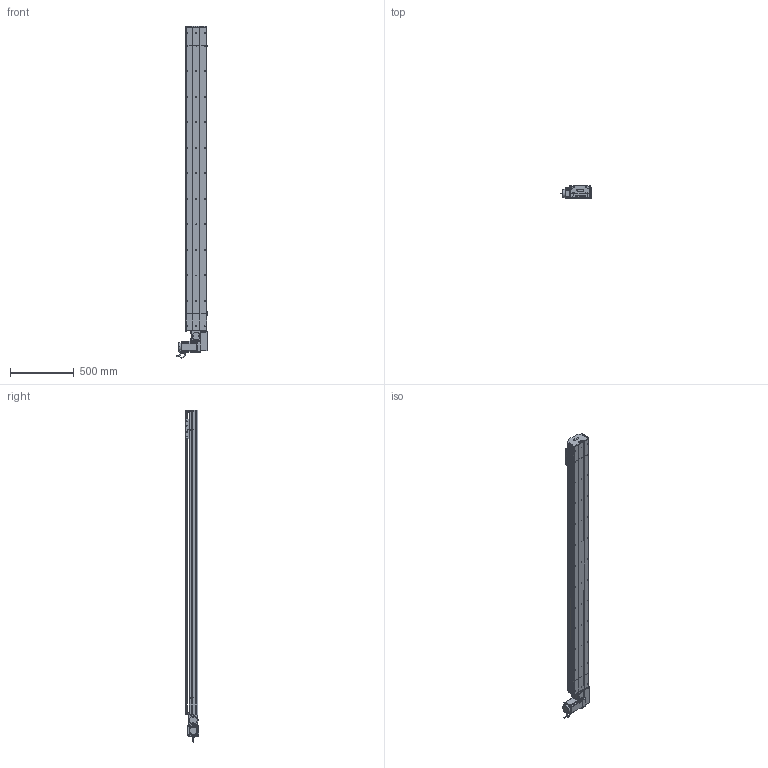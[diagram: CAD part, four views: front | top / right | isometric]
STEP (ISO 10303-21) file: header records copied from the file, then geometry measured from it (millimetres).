
FILE_DESCRIPTION (( 'STEP AP214' ), '1' );
FILE_NAME ('D17 TBH LH S2100.STEP', '2010-06-30T08:26:56', ( 'Christophe Gaillard' ), ( 'SGA' ), 'SwSTEP 2.0', 'SolidWorks 2010', '' );
FILE_SCHEMA (( 'AUTOMOTIVE_DESIGN' ));
Length unit declared in the file: millimetre
Products named in the file (40): D17 TBH LH S2100; Renvoi LH_Default; cache D17_Default; course 2100 D17B_Default; Couroie+ rail D17 Course 2100 ; Arbre+rail head D17B; plaque de  bout head D17B LH_Default; couvercle D17B head_Default; corp D17B 2100_Default; cache arbre D17_Default; corpl head D17 _Default; Head LH D17B_Default; couvercle D17B course L2100_Default; Conecteur2_Default; codeur 90BLDC125-640; corps 90BLDC125A-640; vis M5 L16_Default; Plaque racord D17_Default; vis M5 L70_Default; Conecteur_Default; corp tail D17B+100_Default; Tail D17B+100_Default; Vis M5 L16-2_Default; plaque de  bout tail D17B_Default; Rail D17B; tete d''axe poulie D17B; couvercle D17B_Default; Couroie tail D17B_Default; poulie tail_Default; chariot D17S_Default; vis M5 L25_Default; vis M5 L8 90°_Default; vis M5 L12_Default; guide D17; Chariot D17; poulie head_Default; vis M5 L5_Default; couroie head D17_Default; avant 90BLDC125A-640; Moteur motionking 90BLDC125A-640
Assembly tree (70 placements, depth 4):
  D17 TBH LH S2100
    chariot D17S_Default
      vis M5 L12_Default  x4
      guide D17  x2
      Chariot D17
    Head LH D17B_Default
      vis M5 L12_Default  x8
      vis M5 L5_Default  x4
      vis M5 L70_Default  x4
      Vis M5 L16-2_Default  x4
      couroie head D17_Default
      cache D17_Default  x2
      vis M5 L16_Default  x2
      Moteur motionking 90BLDC125A-640
        avant 90BLDC125A-640
        Conecteur_Default
        corps 90BLDC125A-640
        codeur 90BLDC125-640
        Conecteur2_Default
      vis M5 L25_Default  x2
      cache arbre D17_Default
      plaque de  bout head D17B LH_Default
      couvercle D17B head_Default
      corpl head D17 _Default
      poulie head_Default
      Arbre+rail head D17B
      Plaque racord D17_Default
      Renvoi LH_Default
    course 2100 D17B_Default
      couvercle D17B course L2100_Default
      corp D17B 2100_Default
      Couroie+ rail D17 Course 2100 
    Tail D17B+100_Default
      vis M5 L12_Default  x4
      corp tail D17B+100_Default
      poulie tail_Default
      tete d''axe poulie D17B
      vis M5 L8 90°_Default  x2
      vis M5 L25_Default  x2
      Rail D17B
      couvercle D17B_Default
      plaque de  bout tail D17B_Default
      Couroie tail D17B_Default
Bounding box: 245.2 x 105.65 x 2600.95 mm (x, y, z)
Volume: 14804764.9 mm3; surface area: 4259567.1 mm2
Topology: 94 solids, 94 shells, 2729 faces, 6927 edges, 4458 vertices
Faces by surface type: plane 1611, cylinder 805, bspline 136, cone 88, torus 85, sphere 4
Entity records: 85978 total; most frequent: CARTESIAN_POINT 25299, ORIENTED_EDGE 10626, DIRECTION 10070, EDGE_CURVE 5313, LINE 3504, VECTOR 3504, VERTEX_POINT 3482, AXIS2_PLACEMENT_3D 3283
